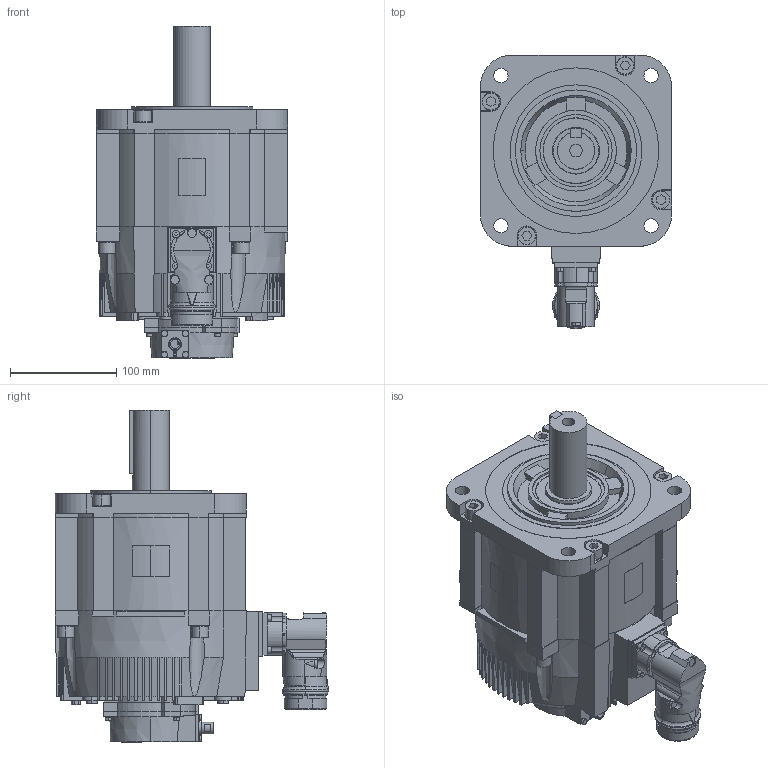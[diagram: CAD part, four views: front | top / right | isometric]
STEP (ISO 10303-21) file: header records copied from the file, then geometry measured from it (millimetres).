
FILE_DESCRIPTION (( 'STEP AP203' ), '1' );
FILE_NAME ('sgm7g_44d_r6h.STEP', '2017-06-13T03:00:08', ( '匠エンジニアリング山之内' ), ( 'TAKUMI-Engniaring' ), 'SwSTEP 2.0', 'SolidWorks 2006303', '' );
FILE_SCHEMA (( 'CONFIG_CONTROL_DESIGN' ));
Length unit declared in the file: millimetre
Products named in the file (4): sgm7g_44d_r6h_base; sgm7g_44d_r6h_key; sgm7g_44d_r6h_connector; sgm7g_44d_r6h
Assembly tree (3 placements, depth 2):
  sgm7g_44d_r6h
    sgm7g_44d_r6h_key
    sgm7g_44d_r6h_connector
    sgm7g_44d_r6h_base
Bounding box: 180 x 257.5 x 312.6 mm (x, y, z)
Volume: 5427212.7 mm3; surface area: 291180.7 mm2
Topology: 3 solids, 3 shells, 1117 faces, 2962 edges, 1945 vertices
Faces by surface type: plane 740, cylinder 292, cone 72, bspline 8, torus 5
Entity records: 36482 total; most frequent: CARTESIAN_POINT 8002, ORIENTED_EDGE 5924, DIRECTION 5844, EDGE_CURVE 2962, AXIS2_PLACEMENT_3D 2048, VERTEX_POINT 1945, VECTOR 1748, LINE 1748
